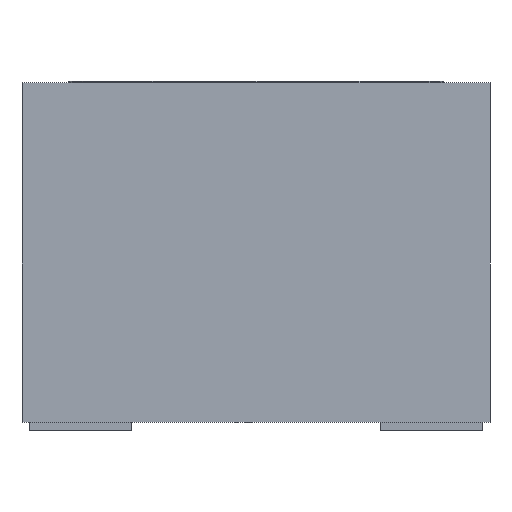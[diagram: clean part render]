
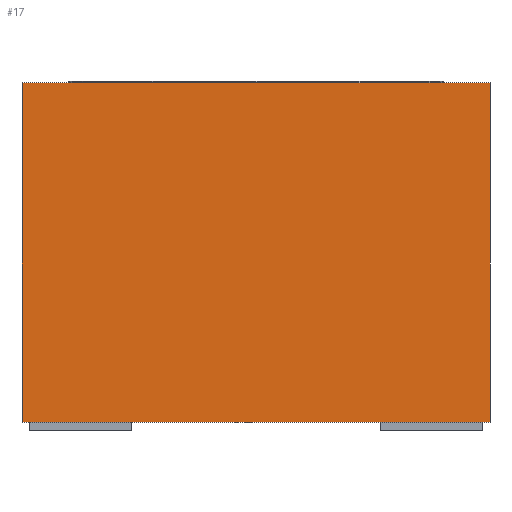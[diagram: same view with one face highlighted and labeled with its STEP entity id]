
A CAD part, front view. The second image highlights one B-rep face of the part: STEP entity #17.
In plain terms, the highlighted planar face has unit normal (0, -1, 0).
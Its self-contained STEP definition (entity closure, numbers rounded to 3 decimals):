
#17 = ADVANCED_FACE('',(#18),#52,.F.);
#18 = FACE_BOUND('',#19,.F.);
#19 = EDGE_LOOP('',(#20,#30,#38,#46));
#20 = ORIENTED_EDGE('',*,*,#21,.T.);
#21 = EDGE_CURVE('',#22,#24,#26,.T.);
#22 = VERTEX_POINT('',#23);
#23 = CARTESIAN_POINT('',(-2.,-2.,0.1));
#24 = VERTEX_POINT('',#25);
#25 = CARTESIAN_POINT('',(-2.,-2.,3.));
#26 = LINE('',#27,#28);
#27 = CARTESIAN_POINT('',(-2.,-2.,0.1));
#28 = VECTOR('',#29,1.);
#29 = DIRECTION('',(0.,0.,1.));
#30 = ORIENTED_EDGE('',*,*,#31,.T.);
#31 = EDGE_CURVE('',#24,#32,#34,.T.);
#32 = VERTEX_POINT('',#33);
#33 = CARTESIAN_POINT('',(2.,-2.,3.));
#34 = LINE('',#35,#36);
#35 = CARTESIAN_POINT('',(-2.,-2.,3.));
#36 = VECTOR('',#37,1.);
#37 = DIRECTION('',(1.,0.,0.));
#38 = ORIENTED_EDGE('',*,*,#39,.F.);
#39 = EDGE_CURVE('',#40,#32,#42,.T.);
#40 = VERTEX_POINT('',#41);
#41 = CARTESIAN_POINT('',(2.,-2.,0.1));
#42 = LINE('',#43,#44);
#43 = CARTESIAN_POINT('',(2.,-2.,0.1));
#44 = VECTOR('',#45,1.);
#45 = DIRECTION('',(0.,0.,1.));
#46 = ORIENTED_EDGE('',*,*,#47,.F.);
#47 = EDGE_CURVE('',#22,#40,#48,.T.);
#48 = LINE('',#49,#50);
#49 = CARTESIAN_POINT('',(-2.,-2.,0.1));
#50 = VECTOR('',#51,1.);
#51 = DIRECTION('',(1.,0.,0.));
#52 = PLANE('',#53);
#53 = AXIS2_PLACEMENT_3D('',#54,#55,#56);
#54 = CARTESIAN_POINT('',(-2.,-2.,0.1));
#55 = DIRECTION('',(0.,1.,0.));
#56 = DIRECTION('',(1.,0.,0.));
